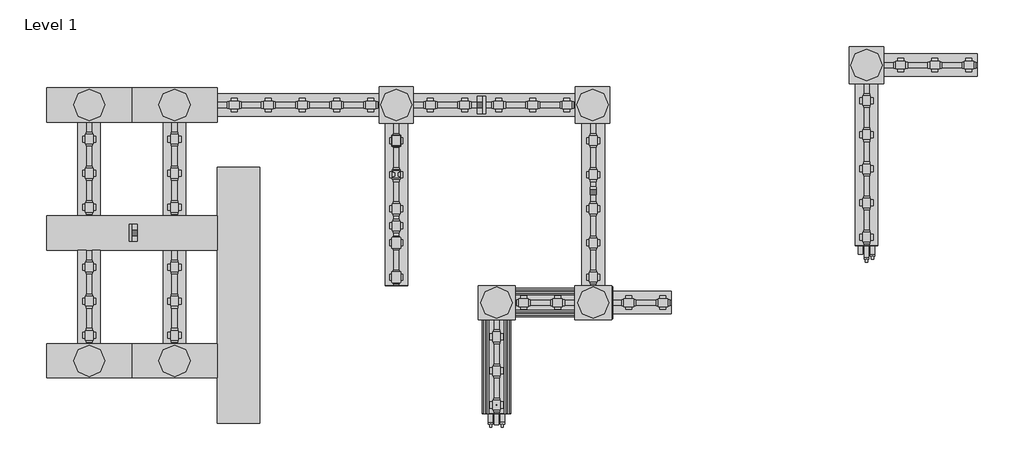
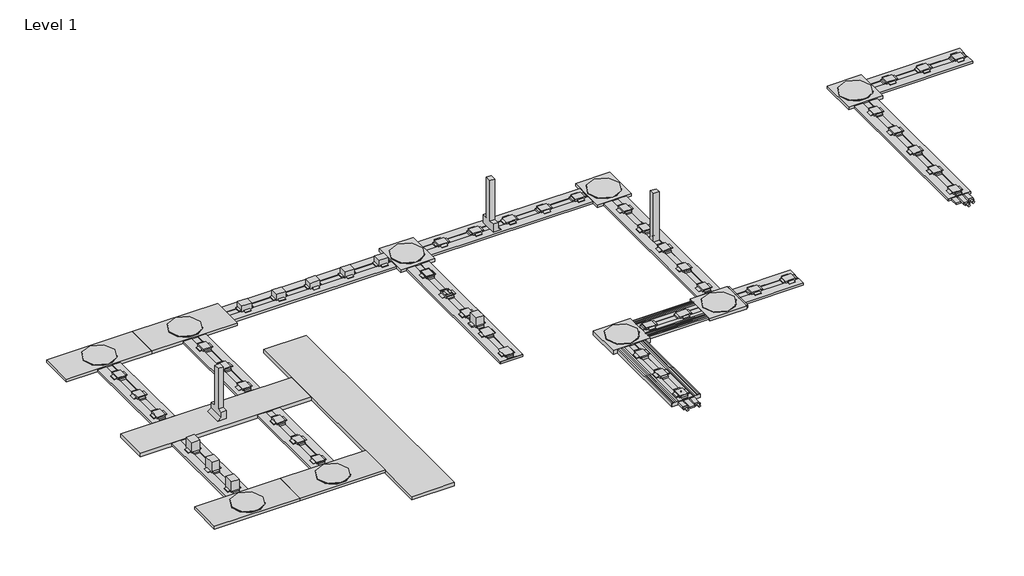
# One storey: 42 proxies.
"""IFC4 building model written with IfcOpenShell, lengths in millimetres."""

from ifc_helpers import new_model, si_unit, origin, place, context, project, spatial, transform, mapped, element, save
from components import electrical_fixtures_e0bb919c, electrical_fixtures_99654428, electrical_fixtures_b959fdb8, proxy_1_2_c1ee5f30, proxy_24_in_wide_57ae7d76, proxy_30_in_wide_520b242f, proxy_312_1_261b0aa3, proxy_312_1_1_4_2c9563e2, floor_port_cover_607aa299, floor_port_cover_flange_black_edcb8a2a, floor_port_furniture_feed_cover_acef65ba, floor_port_furniture_feed_cover_flange_brass_e7a625f1, four_wcr_1_1_2_b9efa807, rec1_1_2_c_dd8a51ac, standard_df24b2be, two_wcr_1_1_2_and_two_wcr_2_f31e0469, two_wcr_2_and_two_wcr_3_27b9381f, wcr_1_1_2_a4006971, wcr_1_1_2_f48f9ecd, wcr_1_1_2_d8c6af24, wcr_1_1_2_6aac2891, wcr_1_1_2_4a1126fe, wcr_1_1_2_d09134c4, proxy_c3b5d53f, wcr_2_2d5ae721, wcr_3_b43005da, wcr_3_18d52f49

model = new_model("IFC4")

# Units and contexts
model_context = context("Model", 3, world=origin())
ifc_project = project(units=[si_unit("LENGTHUNIT", "METRE", prefix="MILLI")], contexts=[model_context])

# Site, building, storey
site = spatial("IfcSite", under=ifc_project)
building = spatial("IfcBuilding", under=site)
storey = spatial("IfcBuildingStorey", under=building, Name="Level 1", Elevation=0.0)

# Proxies
placement = place(None, origin())
electrical_fixtures_shape = electrical_fixtures_e0bb919c(model_context)
element("IfcBuildingElementProxy", 1, Name="Riser-Walkercell-Wiremold : CBR-HT", ObjectType="Riser-Walkercell-Wiremold : CBR-HT", at=placement, inside=storey, context=model_context, shape_type="MappedRepresentation", body=[
    mapped(electrical_fixtures_shape, transform((6916.4983961, 3779.0594826, 295.275), x_axis=(-1.0, 0.0, 0.0), y_axis=(0.0, -1.0, 0.0), z_axis=(0.0, 0.0, 1.0))),
])
electrical_fixtures_2_shape = electrical_fixtures_99654428(model_context)
element("IfcBuildingElementProxy", 2, Name="Riser-Walkercell-Wiremold : CBR-LHT", ObjectType="Riser-Walkercell-Wiremold : CBR-LHT", at=placement, inside=storey, context=model_context, shape_type="MappedRepresentation", body=[
    mapped(electrical_fixtures_2_shape, transform((-1305.4445186, 3023.4094826, 304.8), x_axis=(0.0, -1.0, 0.0), y_axis=(1.0, 0.0, 0.0), z_axis=(0.0, 0.0, 1.0))),
])
electrical_fixtures_3_shape = electrical_fixtures_b959fdb8(model_context)
element("IfcBuildingElementProxy", 3, Name="Afterset-Walkercell-Wiremold : Afterset-Walkercell-Wiremold", ObjectType="Afterset-Walkercell-Wiremold : Afterset-Walkercell-Wiremold", at=placement, inside=storey, context=model_context, shape_type="MappedRepresentation", body=[
    mapped(electrical_fixtures_3_shape, transform((3398.5983961, 3150.4094826, 295.275), x_axis=(1.0, 0.0, 0.0), y_axis=(0.0, 1.0, 0.0), z_axis=(0.0, 0.0, 1.0))),
])
proxy_1_2_shape = proxy_1_2_c1ee5f30(model_context)
element("IfcBuildingElementProxy", 4, Name="Junction_Box_Adapter-Walkercell-Wiremold-Reducer : 1 / 2", ObjectType="Junction_Box_Adapter-Walkercell-Wiremold-Reducer : 1 / 2", at=placement, inside=storey, context=model_context, shape_type="MappedRepresentation", body=[
    mapped(proxy_1_2_shape, transform((7246.6983961, 1778.8094826, 304.8), x_axis=(0.0, 1.0, 0.0), y_axis=(-1.0, 0.0, 0.0), z_axis=(0.0, 0.0, 1.0))),
])
proxy_24_in_wide_shape = proxy_24_in_wide_57ae7d76(model_context)
element("IfcBuildingElementProxy", 5, Name="Header_Duct-Walkercell-Wiremold : 24 In Wide", ObjectType="Header_Duct-Walkercell-Wiremold : 24 In Wide", at=placement, inside=storey, context=model_context, shape_type="MappedRepresentation", body=[
    mapped(proxy_24_in_wide_shape, transform((-2849.8016039, 3023.4094826, 304.8), x_axis=(1.0, 0.0, 0.0), y_axis=(0.0, 1.0, 0.0), z_axis=(0.0, 0.0, 1.0))),
])
proxy_30_in_wide_shape = proxy_30_in_wide_520b242f(model_context)
element("IfcBuildingElementProxy", 6, Name="Header_Duct-Walkercell-Wiremold : 30 In Wide", ObjectType="Header_Duct-Walkercell-Wiremold : 30 In Wide", at=placement, inside=storey, context=model_context, shape_type="MappedRepresentation", body=[
    mapped(proxy_30_in_wide_shape, transform((579.1983961, 4193.3969826, 304.8), x_axis=(0.0, -1.0, 0.0), y_axis=(1.0, 0.0, 0.0), z_axis=(0.0, 0.0, 1.0))),
])
proxy_312_1_shape = proxy_312_1_261b0aa3(model_context)
element("IfcBuildingElementProxy", 7, Name="Duct_Adapter-Walkercell-Wiremold-Conduit : 312-1", ObjectType="Duct_Adapter-Walkercell-Wiremold-Conduit : 312-1", at=placement, inside=storey, context=model_context, shape_type="MappedRepresentation", body=[
    mapped(proxy_312_1_shape, transform((5294.0733961, -356.5685174, 267.4874), x_axis=(1.0, 0.0, 0.0), y_axis=(0.0, 0.0, 1.0), z_axis=(0.0, -1.0, 0.0))),
])
element("IfcBuildingElementProxy", 8, Name="Duct_Adapter-Walkercell-Wiremold-Conduit : 312-1", ObjectType="Duct_Adapter-Walkercell-Wiremold-Conduit : 312-1", at=placement, inside=storey, context=model_context, shape_type="MappedRepresentation", body=[
    mapped(proxy_312_1_shape, transform((5084.5233961, -356.5685174, 267.4874), x_axis=(1.0, 0.0, 0.0), y_axis=(0.0, 0.0, 1.0), z_axis=(0.0, -1.0, 0.0))),
])
element("IfcBuildingElementProxy", 9, Name="Duct_Adapter-Walkercell-Wiremold-Conduit : 312-1", ObjectType="Duct_Adapter-Walkercell-Wiremold-Conduit : 312-1", at=placement, inside=storey, context=model_context, shape_type="MappedRepresentation", body=[
    mapped(proxy_312_1_shape, transform((11799.7081798, 2592.6531111, -19.05), x_axis=(1.0, 0.0, 0.0), y_axis=(0.0, 0.0, 1.0), z_axis=(0.0, -1.0, 0.0))),
])
proxy_312_1_1_4_shape = proxy_312_1_1_4_2c9563e2(model_context)
element("IfcBuildingElementProxy", 10, Name="Duct_Adapter-Walkercell-Wiremold-Conduit : 312-1 1/4", ObjectType="Duct_Adapter-Walkercell-Wiremold-Conduit : 312-1 1/4", at=placement, inside=storey, context=model_context, shape_type="MappedRepresentation", body=[
    mapped(proxy_312_1_1_4_shape, transform((11904.4831798, 2643.4531111, -19.05), x_axis=(1.0, 0.0, 0.0), y_axis=(0.0, 0.0, 1.0), z_axis=(0.0, -1.0, 0.0))),
])
element("IfcBuildingElementProxy", 11, Name="Riser-Walkercell-Wiremold : CBR1 1/2-LHT", ObjectType="Riser-Walkercell-Wiremold : CBR1 1/2-LHT", at=placement, inside=storey, context=model_context, shape_type="MappedRepresentation", body=[
    mapped(electrical_fixtures_2_shape, transform((4922.5983961, 5309.4094826, 304.8), x_axis=(0.0, 1.0, 0.0), y_axis=(-1.0, 0.0, 0.0), z_axis=(0.0, 0.0, 1.0))),
])
floor_port_cover_shape = floor_port_cover_607aa299(model_context)
element("IfcBuildingElementProxy", 12, Name="Floor Port Cover : Flangeless Cutout, Bronze", ObjectType="Floor Port Cover : Flangeless Cutout, Bronze", at=placement, inside=storey, context=model_context, shape_type="MappedRepresentation", body=[
    mapped(floor_port_cover_shape, transform((3398.5983961, 4064.8094826, 339.725), x_axis=(0.0, 1.0000000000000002, 0.0), y_axis=(-1.0000000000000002, 0.0, 0.0), z_axis=(0.0, 0.0, 1.0))),
])
floor_port_cover_flange_black_shape = floor_port_cover_flange_black_edcb8a2a(model_context)
element("IfcBuildingElementProxy", 13, Name="Floor Port Cover : Flange, Black", ObjectType="Floor Port Cover : Flange, Black", at=placement, inside=storey, context=model_context, shape_type="MappedRepresentation", body=[
    mapped(floor_port_cover_flange_black_shape, transform((3398.5983961, 4674.4094826, 339.725), x_axis=(0.0, 1.0000000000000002, 0.0), y_axis=(-1.0000000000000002, 0.0, 0.0), z_axis=(0.0, 0.0, 1.0))),
])
floor_port_furniture_feed_cover_shape = floor_port_furniture_feed_cover_acef65ba(model_context)
element("IfcBuildingElementProxy", 14, Name="Floor Port Furniture Feed Cover : Flangeless, Nickel", ObjectType="Floor Port Furniture Feed Cover : Flangeless, Nickel", at=placement, inside=storey, context=model_context, shape_type="MappedRepresentation", body=[
    mapped(floor_port_furniture_feed_cover_shape, transform((3398.5983961, 2845.6094826, 339.725), x_axis=(0.0, 1.0000000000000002, 0.0), y_axis=(-1.0000000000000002, 0.0, 0.0), z_axis=(0.0, 0.0, 1.0))),
])
element("IfcBuildingElementProxy", 15, Name="Floor Port Furniture Feed Cover : Flangeless, Aluminum", ObjectType="Floor Port Furniture Feed Cover : Flangeless, Aluminum", at=placement, inside=storey, context=model_context, shape_type="MappedRepresentation", body=[
    mapped(floor_port_furniture_feed_cover_shape, transform((3398.5983961, 2236.0094826, 339.725), x_axis=(0.0, 1.0000000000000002, 0.0), y_axis=(-1.0000000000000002, 0.0, 0.0), z_axis=(0.0, 0.0, 1.0))),
])
floor_port_furniture_feed_cover_flange_brass_shape = floor_port_furniture_feed_cover_flange_brass_e7a625f1(model_context)
element("IfcBuildingElementProxy", 16, Name="Floor Port Furniture Feed Cover : Flange, Brass", ObjectType="Floor Port Furniture Feed Cover : Flange, Brass", at=placement, inside=storey, context=model_context, shape_type="MappedRepresentation", body=[
    mapped(floor_port_furniture_feed_cover_flange_brass_shape, transform((3398.5983961, 3455.2094826, 339.725), x_axis=(0.0, 1.0000000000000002, 0.0), y_axis=(-1.0000000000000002, 0.0, 0.0), z_axis=(0.0, 0.0, 1.0))),
])
four_wcr_1_1_2_shape = four_wcr_1_1_2_b9efa807(model_context)
element("IfcBuildingElementProxy", 17, Name="Junction_Box-Walkercell-Wiremold : Four WCR 1 1/2", ObjectType="Junction_Box-Walkercell-Wiremold : Four WCR 1 1/2", at=placement, inside=storey, context=model_context, shape_type="MappedRepresentation", body=[
    mapped(four_wcr_1_1_2_shape, transform((3398.5983961, 5309.4094826, 304.8), x_axis=(1.0, 0.0, 0.0), y_axis=(0.0, 1.0, 0.0), z_axis=(0.0, 0.0, 1.0))),
])
element("IfcBuildingElementProxy", 18, Name="Junction_Box-Walkercell-Wiremold : Four WCR 1 1/2", ObjectType="Junction_Box-Walkercell-Wiremold : Four WCR 1 1/2", at=placement, inside=storey, context=model_context, shape_type="MappedRepresentation", body=[
    mapped(four_wcr_1_1_2_shape, transform((6903.7983961, 5309.4094826, 304.8), x_axis=(1.0, 0.0, 0.0), y_axis=(0.0, 1.0, 0.0), z_axis=(0.0, 0.0, 1.0))),
])
element("IfcBuildingElementProxy", 19, Name="Junction_Box-Walkercell-Wiremold : Four WCR 1 1/2", ObjectType="Junction_Box-Walkercell-Wiremold : Four WCR 1 1/2", at=placement, inside=storey, context=model_context, shape_type="MappedRepresentation", body=[
    mapped(four_wcr_1_1_2_shape, transform((11799.7081798, 6023.4311111, 0.0), x_axis=(1.0, 0.0, 0.0), y_axis=(0.0, 1.0, 0.0), z_axis=(0.0, 0.0, 1.0))),
])
rec1_1_2_c_shape = rec1_1_2_c_dd8a51ac(model_context)
element("IfcBuildingElementProxy", 20, Name="End_Closure-Walkercell-Wiremold-Conduit : REC1 1/2-C", ObjectType="End_Closure-Walkercell-Wiremold-Conduit : REC1 1/2-C", at=placement, inside=storey, context=model_context, shape_type="MappedRepresentation", body=[
    mapped(rec1_1_2_c_shape, transform((3398.5983961, 2083.6094826, 285.75), x_axis=(1.0, 0.0, 0.0), y_axis=(0.0, 0.0, 1.0), z_axis=(0.0, -1.0, 0.0))),
])
standard_shape = standard_df24b2be(model_context)
element("IfcBuildingElementProxy", 21, Name="Marker_Cap-Walkercell-Wiremold : Standard", ObjectType="Marker_Cap-Walkercell-Wiremold : Standard", at=placement, inside=storey, context=model_context, shape_type="MappedRepresentation", body=[
    mapped(standard_shape, transform((5189.2983961, -49.9905174, 330.2), x_axis=(1.0, 0.0, 0.0), y_axis=(0.0, 1.0, 0.0), z_axis=(0.0, 0.0, 1.0))),
])
two_wcr_1_1_2_and_two_wcr_2_shape = two_wcr_1_1_2_and_two_wcr_2_f31e0469(model_context)
element("IfcBuildingElementProxy", 22, Name="Junction_Box-Walkercell-Wiremold : Two WCR 1 1/2 and Two WCR 2", ObjectType="Junction_Box-Walkercell-Wiremold : Two WCR 1 1/2 and Two WCR 2", at=placement, inside=storey, context=model_context, shape_type="MappedRepresentation", body=[
    mapped(two_wcr_1_1_2_and_two_wcr_2_shape, transform((6916.4983961, 1778.8094826, 304.8), x_axis=(0.0, 1.0000000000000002, 0.0), y_axis=(-1.0000000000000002, 0.0, 0.0), z_axis=(0.0, 0.0, 1.0))),
])
two_wcr_2_and_two_wcr_3_shape = two_wcr_2_and_two_wcr_3_27b9381f(model_context)
element("IfcBuildingElementProxy", 23, Name="Junction_Box-Walkercell-Wiremold : Two WCR 2 and Two WCR 3", ObjectType="Junction_Box-Walkercell-Wiremold : Two WCR 2 and Two WCR 3", at=placement, inside=storey, context=model_context, shape_type="MappedRepresentation", body=[
    mapped(two_wcr_2_and_two_wcr_3_shape, transform((5189.2983961, 1778.8094826, 304.8), x_axis=(0.0, 1.0000000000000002, 0.0), y_axis=(-1.0000000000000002, 0.0, 0.0), z_axis=(0.0, 0.0, 1.0))),
])
wcr_1_1_2_shape = wcr_1_1_2_a4006971(model_context)
element("IfcBuildingElementProxy", 24, Name="End_Closure-Walkercell-Wiremold-Duct_Stubs : WCR 1 1/2", ObjectType="End_Closure-Walkercell-Wiremold-Duct_Stubs : WCR 1 1/2", at=placement, inside=storey, context=model_context, shape_type="MappedRepresentation", body=[
    mapped(wcr_1_1_2_shape, transform((11799.7081798, 2797.6311111, -19.05), x_axis=(-1.0, 0.0, 0.0), y_axis=(0.0, 0.0, -1.0), z_axis=(0.0, -1.0, 0.0))),
])
wcr_1_1_2_2_shape = wcr_1_1_2_f48f9ecd(model_context)
element("IfcBuildingElementProxy", 25, Name="Duct-Walkercell-Wiremold : WCR 1 1/2", ObjectType="Duct-Walkercell-Wiremold : WCR 1 1/2", at=placement, inside=storey, context=model_context, shape_type="MappedRepresentation", body=[
    mapped(wcr_1_1_2_2_shape, transform((198.1983961, 5309.4094826, 304.8), x_axis=(1.0, 0.0, 0.0), y_axis=(0.0, 1.0, 0.0), z_axis=(0.0, 0.0, 1.0))),
])
wcr_1_1_2_3_shape = wcr_1_1_2_d8c6af24(model_context)
element("IfcBuildingElementProxy", 26, Name="Duct-Walkercell-Wiremold : WCR 1 1/2", ObjectType="Duct-Walkercell-Wiremold : WCR 1 1/2", at=placement, inside=storey, context=model_context, shape_type="MappedRepresentation", body=[
    mapped(wcr_1_1_2_3_shape, transform((3703.3983961, 5309.4094826, 304.8), x_axis=(1.0, 0.0, 0.0), y_axis=(0.0, 1.0, 0.0), z_axis=(0.0, 0.0, 1.0))),
])
element("IfcBuildingElementProxy", 27, Name="Duct-Walkercell-Wiremold : WCR 1 1/2", ObjectType="Duct-Walkercell-Wiremold : WCR 1 1/2", at=placement, inside=storey, context=model_context, shape_type="MappedRepresentation", body=[
    mapped(wcr_1_1_2_3_shape, transform((6916.4983961, 4979.2094826, 304.8), x_axis=(0.0, -1.0, 0.0), y_axis=(1.0, 0.0, 0.0), z_axis=(0.0, 0.0, 1.0))),
])
element("IfcBuildingElementProxy", 28, Name="Duct-Walkercell-Wiremold : WCR 1 1/2", ObjectType="Duct-Walkercell-Wiremold : WCR 1 1/2", at=placement, inside=storey, context=model_context, shape_type="MappedRepresentation", body=[
    mapped(wcr_1_1_2_3_shape, transform((3398.5983961, 4979.2094826, 304.8), x_axis=(0.0, -1.0, 0.0), y_axis=(1.0, 0.0, 0.0), z_axis=(0.0, 0.0, 1.0))),
])
element("IfcBuildingElementProxy", 29, Name="Duct-Walkercell-Wiremold : WCR 1 1/2", ObjectType="Duct-Walkercell-Wiremold : WCR 1 1/2", at=placement, inside=storey, context=model_context, shape_type="MappedRepresentation", body=[
    mapped(wcr_1_1_2_3_shape, transform((11799.7081798, 5693.2311111, 0.0), x_axis=(0.0, -1.0, 0.0), y_axis=(1.0, 0.0, 0.0), z_axis=(0.0, 0.0, 1.0))),
])
wcr_1_1_2_4_shape = wcr_1_1_2_6aac2891(model_context)
element("IfcBuildingElementProxy", 30, Name="Duct-Walkercell-Wiremold : WCR 1 1/2", ObjectType="Duct-Walkercell-Wiremold : WCR 1 1/2", at=placement, inside=storey, context=model_context, shape_type="MappedRepresentation", body=[
    mapped(wcr_1_1_2_4_shape, transform((-563.8016039, 5004.6094826, 304.8), x_axis=(0.0, -1.0, 0.0), y_axis=(1.0, 0.0, 0.0), z_axis=(0.0, 0.0, 1.0))),
])
element("IfcBuildingElementProxy", 31, Name="Duct-Walkercell-Wiremold : WCR 1 1/2", ObjectType="Duct-Walkercell-Wiremold : WCR 1 1/2", at=placement, inside=storey, context=model_context, shape_type="MappedRepresentation", body=[
    mapped(wcr_1_1_2_4_shape, transform((-2087.8016039, 5004.6094826, 304.8), x_axis=(0.0, -1.0, 0.0), y_axis=(1.0, 0.0, 0.0), z_axis=(0.0, 0.0, 1.0))),
])
element("IfcBuildingElementProxy", 32, Name="Duct-Walkercell-Wiremold : WCR 1 1/2", ObjectType="Duct-Walkercell-Wiremold : WCR 1 1/2", at=placement, inside=storey, context=model_context, shape_type="MappedRepresentation", body=[
    mapped(wcr_1_1_2_4_shape, transform((-563.8016039, 2718.6094826, 304.8), x_axis=(0.0, -1.0, 0.0), y_axis=(1.0, 0.0, 0.0), z_axis=(0.0, 0.0, 1.0))),
])
wcr_1_1_2_5_shape = wcr_1_1_2_4a1126fe(model_context)
element("IfcBuildingElementProxy", 33, Name="Duct-Walkercell-Wiremold : WCR 1 1/2", ObjectType="Duct-Walkercell-Wiremold : WCR 1 1/2", at=placement, inside=storey, context=model_context, shape_type="MappedRepresentation", body=[
    mapped(wcr_1_1_2_5_shape, transform((7246.6983961, 1778.8094826, 304.8), x_axis=(1.0, 0.0, 0.0), y_axis=(0.0, 1.0, 0.0), z_axis=(0.0, 0.0, 1.0))),
])
wcr_1_1_2_6_shape = wcr_1_1_2_d09134c4(model_context)
element("IfcBuildingElementProxy", 34, Name="Duct-Walkercell-Wiremold : WCR 1 1/2", ObjectType="Duct-Walkercell-Wiremold : WCR 1 1/2", at=placement, inside=storey, context=model_context, shape_type="MappedRepresentation", body=[
    mapped(wcr_1_1_2_6_shape, transform((-2087.8016039, 2718.6094826, 304.8), x_axis=(0.0, -1.0, 0.0), y_axis=(1.0, 0.0, 0.0), z_axis=(0.0, 0.0, 1.0))),
])
element("IfcBuildingElementProxy", 35, Name="Duct-Walkercell-Wiremold : WCR 1 1/2", ObjectType="Duct-Walkercell-Wiremold : WCR 1 1/2", at=placement, inside=storey, context=model_context, shape_type="MappedRepresentation", body=[
    mapped(wcr_1_1_2_4_shape, transform((12104.5081798, 6023.4311111, 0.0), x_axis=(1.0, 0.0, 0.0), y_axis=(0.0, 1.0, 0.0), z_axis=(0.0, 0.0, 1.0))),
])
proxy_shape = proxy_c3b5d53f(model_context)
element("IfcBuildingElementProxy", 36, Name="Junction_Box_Header-Walkercell-Wiremold : WCR 1 1/2, 24\" Width", ObjectType="Junction_Box_Header-Walkercell-Wiremold : WCR 1 1/2, 24\" Width", at=placement, inside=storey, context=model_context, shape_type="MappedRepresentation", body=[
    mapped(proxy_shape, transform((-563.8016039, 5309.4094826, 304.8), x_axis=(1.0, 0.0, 0.0), y_axis=(0.0, 1.0, 0.0), z_axis=(0.0, 0.0, 1.0))),
])
element("IfcBuildingElementProxy", 37, Name="Junction_Box_Header-Walkercell-Wiremold : WCR 1 1/2, 24\" Width", ObjectType="Junction_Box_Header-Walkercell-Wiremold : WCR 1 1/2, 24\" Width", at=placement, inside=storey, context=model_context, shape_type="MappedRepresentation", body=[
    mapped(proxy_shape, transform((-2087.8016039, 5309.4094826, 304.8), x_axis=(1.0, 0.0, 0.0), y_axis=(0.0, 1.0, 0.0), z_axis=(0.0, 0.0, 1.0))),
])
element("IfcBuildingElementProxy", 38, Name="Junction_Box_Header-Walkercell-Wiremold : WCR 1 1/2, 24\" Width", ObjectType="Junction_Box_Header-Walkercell-Wiremold : WCR 1 1/2, 24\" Width", at=placement, inside=storey, context=model_context, shape_type="MappedRepresentation", body=[
    mapped(proxy_shape, transform((-563.8016039, 737.4094826, 304.8), x_axis=(1.0, 0.0, 0.0), y_axis=(0.0, 1.0, 0.0), z_axis=(0.0, 0.0, 1.0))),
])
element("IfcBuildingElementProxy", 39, Name="Junction_Box_Header-Walkercell-Wiremold : WCR 1 1/2, 24\" Width", ObjectType="Junction_Box_Header-Walkercell-Wiremold : WCR 1 1/2, 24\" Width", at=placement, inside=storey, context=model_context, shape_type="MappedRepresentation", body=[
    mapped(proxy_shape, transform((-2087.8016039, 737.4094826, 304.8), x_axis=(1.0, 0.0, 0.0), y_axis=(0.0, 1.0, 0.0), z_axis=(0.0, 0.0, 1.0))),
])
wcr_2_shape = wcr_2_2d5ae721(model_context)
element("IfcBuildingElementProxy", 40, Name="Duct-Walkercell-Wiremold : WCR 2", ObjectType="Duct-Walkercell-Wiremold : WCR 2", at=placement, inside=storey, context=model_context, shape_type="MappedRepresentation", body=[
    mapped(wcr_2_shape, transform((6586.2983961, 1778.8094826, 304.8), x_axis=(-1.0, 0.0, 0.0), y_axis=(0.0, -1.0, 0.0), z_axis=(0.0, 0.0, 1.0))),
])
wcr_3_shape = wcr_3_b43005da(model_context)
element("IfcBuildingElementProxy", 41, Name="End_Closure-Walkercell-Wiremold-Duct_Stubs : WCR 3", ObjectType="End_Closure-Walkercell-Wiremold-Duct_Stubs : WCR 3", at=placement, inside=storey, context=model_context, shape_type="MappedRepresentation", body=[
    mapped(wcr_3_shape, transform((5189.2983961, -202.3905174, 267.4874), x_axis=(-1.0, 0.0, 0.0), y_axis=(0.0, 0.0, -1.0), z_axis=(0.0, -1.0, 0.0))),
])
wcr_3_2_shape = wcr_3_18d52f49(model_context)
element("IfcBuildingElementProxy", 42, Name="Duct-Walkercell-Wiremold : WCR 3", ObjectType="Duct-Walkercell-Wiremold : WCR 3", at=placement, inside=storey, context=model_context, shape_type="MappedRepresentation", body=[
    mapped(wcr_3_2_shape, transform((5189.2983961, 1474.0094826, 304.8), x_axis=(0.0, -1.0, 0.0), y_axis=(1.0, 0.0, 0.0), z_axis=(0.0, 0.0, 1.0))),
])

save(model, "model.ifc")
